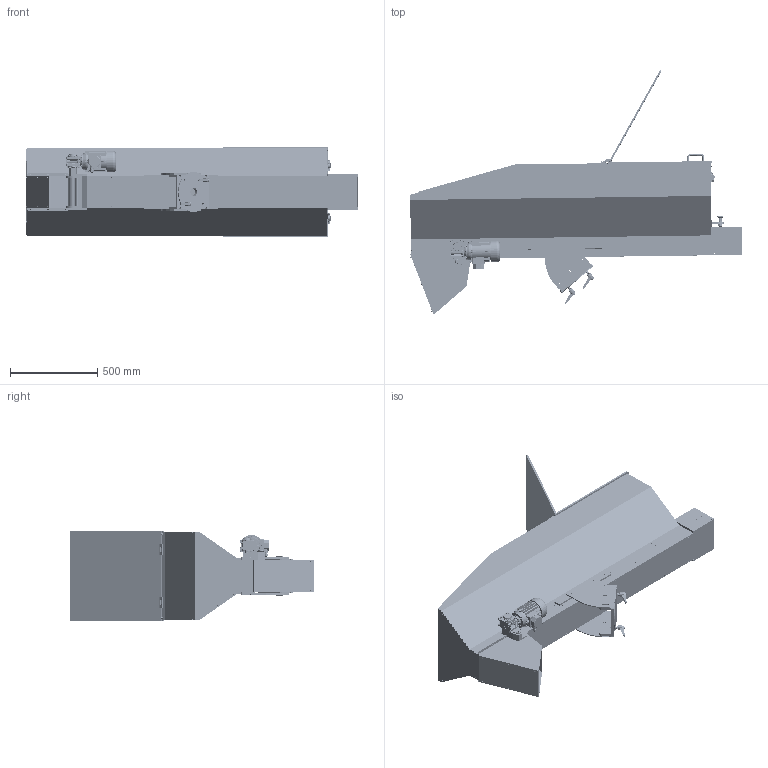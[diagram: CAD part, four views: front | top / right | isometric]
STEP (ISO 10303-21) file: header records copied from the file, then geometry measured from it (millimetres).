
FILE_DESCRIPTION (( 'STEP AP214' ), '1' );
FILE_NAME ('CM001888.00.step', '2024-09-25T08:23:21', ( '' ), ( '' ), 'SwSTEP 2.0', 'SolidWorks 2023', '' );
FILE_SCHEMA (( 'AUTOMOTIVE_DESIGN' ));
Length unit declared in the file: millimetre
Products named in the file (3): Copia di Copia di Copia di Supporto TRM^CM001888; CM001888.00; Copia di CM001888^CM001888
Assembly tree (2 placements, depth 2):
  CM001888.00
    Copia di CM001888^CM001888
    Copia di Copia di Copia di Supporto TRM^CM001888
Bounding box: 1901.91 x 1397.92 x 520 mm (x, y, z)
Surface area: 14395261.5 mm2 (no closed solid volume)
Topology: 0 solids, 485 shells, 6884 faces, 17642 edges, 11525 vertices
Faces by surface type: plane 3167, cylinder 2593, cone 778, bspline 209, torus 75, sphere 62
Entity records: 237764 total; most frequent: CARTESIAN_POINT 68126, DIRECTION 34816, ORIENTED_EDGE 34250, EDGE_CURVE 17403, AXIS2_PLACEMENT_3D 12886, VERTEX_POINT 11441, LINE 9044, VECTOR 9044
